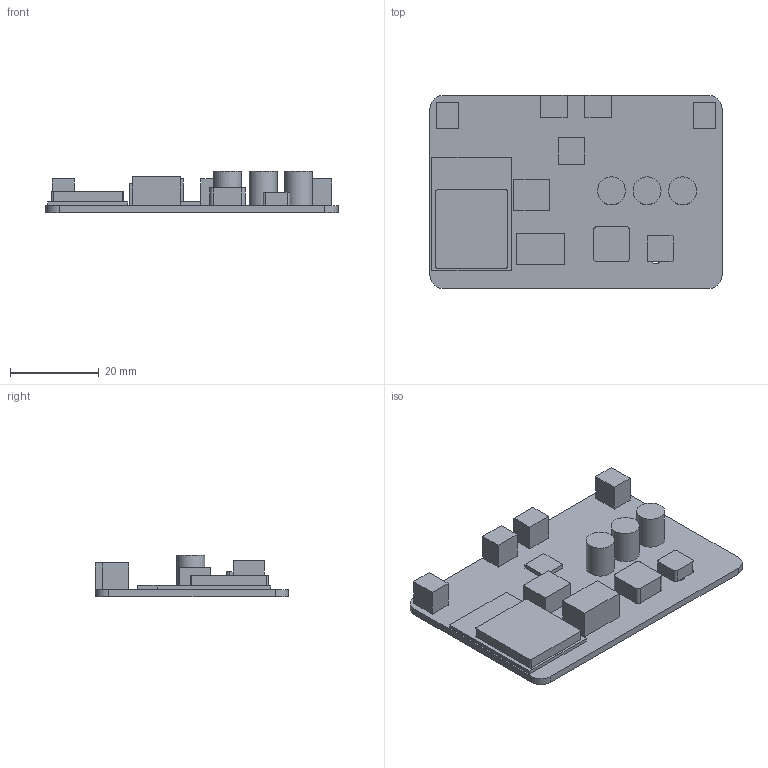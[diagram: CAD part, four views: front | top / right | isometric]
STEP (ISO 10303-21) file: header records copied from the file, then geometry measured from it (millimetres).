
FILE_DESCRIPTION(('Open CASCADE Model'),'2;1');
FILE_NAME('Open CASCADE Shape Model','2026-11-01T16:34:13',('Author'),( 'Open CASCADE'),'Open CASCADE STEP processor 8.0','build123d', 'Unknown');
FILE_SCHEMA(('AUTOMOTIVE_DESIGN { 1 0 10303 214 1 1 1 1 }'));
Length unit declared in the file: millimetre
Products named in the file (1): SOLID
Bounding box: 65.8 x 43.5 x 9.3 mm (x, y, z)
Volume: 8170.9 mm3; surface area: 7912.6 mm2
Topology: 1 solids, 1 shells, 89 faces, 217 edges, 144 vertices
Faces by surface type: plane 66, cylinder 23
Full cylindrical faces by diameter (mm): 2.7 x4, 6.3 x3
Entity records: 5486 total; most frequent: CARTESIAN_POINT 981, DIRECTION 863, LINE 555, VECTOR 555, ORIENTED_EDGE 434, PCURVE 434, DEFINITIONAL_REPRESENTATION 434, EDGE_CURVE 217
